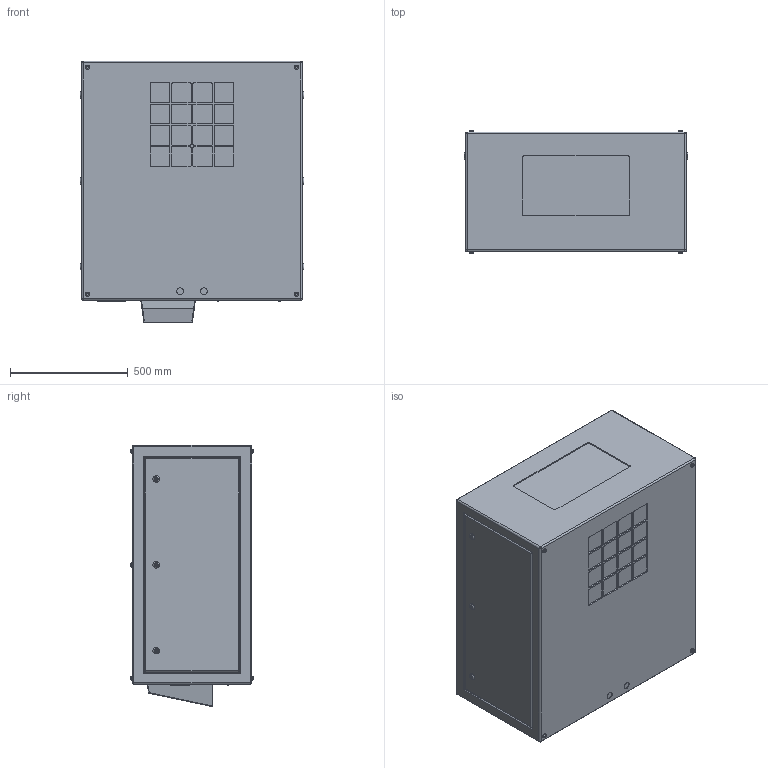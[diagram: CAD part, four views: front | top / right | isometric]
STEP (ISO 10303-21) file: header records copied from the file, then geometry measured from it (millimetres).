
FILE_DESCRIPTION (( 'STEP AP214' ), '1' );
FILE_NAME ('Cyclone 55.250.L R10.STEP', '2022-09-08T19:03:25', ( '' ), ( '' ), 'SwSTEP 2.0', 'SolidWorks 2020', '' );
FILE_SCHEMA (( 'AUTOMOTIVE_DESIGN' ));
Length unit declared in the file: inch
Products named in the file (1): Cyclone 55.250.L R10
Bounding box: 952.5 x 522.6 x 1111.25 mm (x, y, z)
Volume: 483734765 mm3; surface area: 4320025.3 mm2
Topology: 1 solids, 7 shells, 532 faces, 1256 edges, 804 vertices
Faces by surface type: plane 260, cylinder 220, torus 44, sphere 8
Entity records: 19389 total; most frequent: CARTESIAN_POINT 3193, DIRECTION 2694, ORIENTED_EDGE 2496, EDGE_CURVE 1248, AXIS2_PLACEMENT_3D 1009, VERTEX_POINT 804, VECTOR 676, LINE 676
